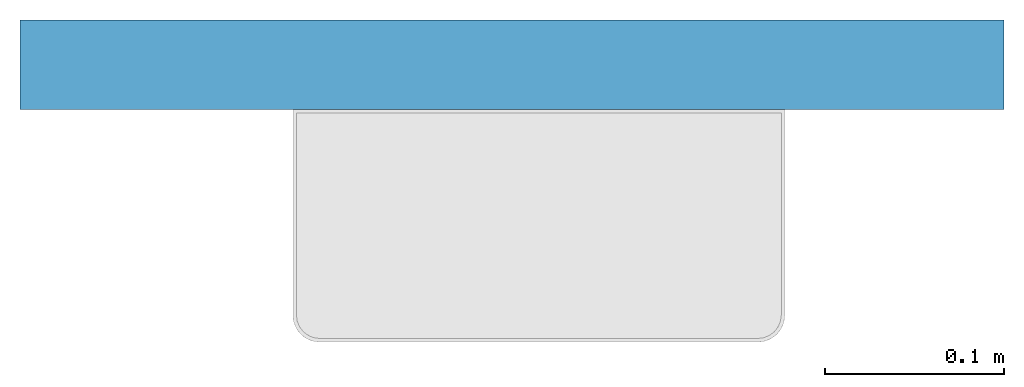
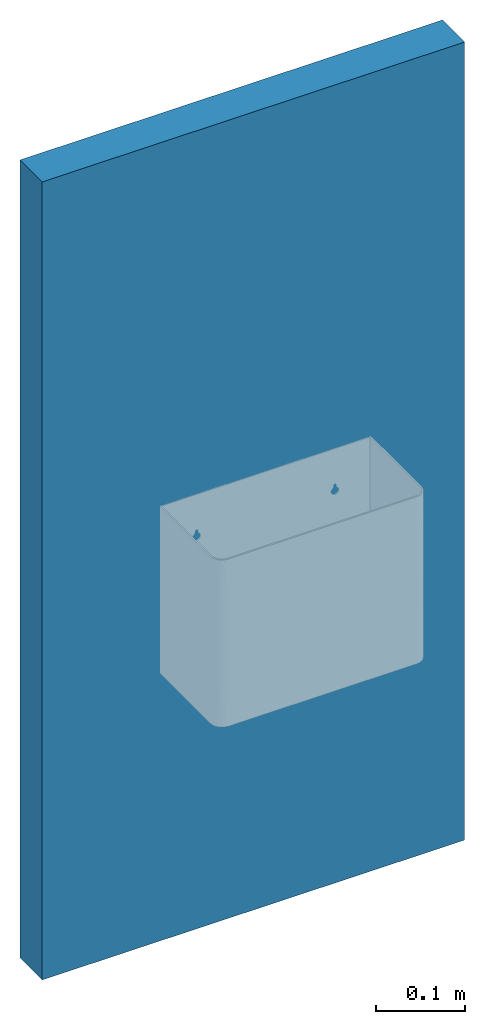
# One storey, part 1 of 2: 1 wall.
"""IFC2X3 building model written with IfcOpenShell, lengths in millimetres."""

from ifc_helpers import new_model, entity, si_unit, converted_unit, derived_unit, direction, frame, frame_2d, origin, place, context, subcontext, project, spatial, rectangle, extrude, material, layer, layer_set, layer_usage, type_object, element, save


model = new_model("IFC2X3")

# Units and contexts
model_context = context("Model", 3, precision=1e-05, world=origin(), true_north=direction((2.0, 6.12303176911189e-17, 1.0)))
context_of_model = context(None, 3, precision=1e-05, world=origin(), true_north=direction((2.0, 6.12303176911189e-17, 1.0)))
body_context = subcontext(model_context, "Body", "Model", "MODEL_VIEW")
ifc_project = project(units=[si_unit("LENGTHUNIT", "METRE", prefix="MILLI"), si_unit("AREAUNIT", "SQUARE_METRE"), si_unit("VOLUMEUNIT", "CUBIC_METRE"), converted_unit("PLANEANGLEUNIT", "DEGREE", entity("IfcRatioMeasure", 0.0174532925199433), si_unit("PLANEANGLEUNIT", "RADIAN"), dimensions=[0, 0, 0, 0, 0, 0, 0]), si_unit("MASSUNIT", "GRAM", prefix="KILO"), si_unit("TIMEUNIT", "SECOND"), si_unit("THERMODYNAMICTEMPERATUREUNIT", "KELVIN"), derived_unit("THERMALTRANSMITTANCEUNIT", [(si_unit("MASSUNIT", "GRAM", prefix="KILO"), 1), (si_unit("THERMODYNAMICTEMPERATUREUNIT", "KELVIN"), -1), (si_unit("TIMEUNIT", "SECOND"), -3)]), derived_unit("VOLUMETRICFLOWRATEUNIT", [(si_unit("LENGTHUNIT", "METRE"), 3), (si_unit("TIMEUNIT", "SECOND"), -1)]), si_unit("POWERUNIT", "WATT")], contexts=[model_context, context_of_model])

# Site, building, storey
site_placement = place(None, origin())
site = spatial("IfcSite", under=ifc_project, at=site_placement, Name="Default", CompositionType="ELEMENT")
building_placement = place(site_placement, origin())
building = spatial("IfcBuilding", under=site, at=building_placement, CompositionType="ELEMENT")
storey_placement = place(building_placement, origin())
storey = spatial("IfcBuildingStorey", under=building, at=storey_placement, Name="Level 1", CompositionType="ELEMENT", Elevation=0.0)

# Wall
ifc_material = material(Name="Default Wall")
ifc_layer = layer(ifc_material, 50.0)
ifc_layer_set = layer_set([ifc_layer], Name="Basic Wall:Wall 1")
ifc_layer_usage = layer_usage(ifc_layer_set, "AXIS2", "NEGATIVE", 25.0)
wall_type = type_object("IfcWallType", Name="Basic Wall:Wall 1", PredefinedType="STANDARD", material=ifc_layer_set)
wall_placement = place(storey_placement, frame((-90.7477365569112, 3977.69853342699, 5.76079636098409)))
element("IfcWallStandardCase", 1, at=wall_placement, inside=storey, type_object=wall_type, material=ifc_layer_usage, Name="Basic Wall:Wall 1:3092", ObjectType="Basic Wall:Wall 1:1494", context=body_context, shape_type="SweptSolid", body=[
    extrude(rectangle(XDim=550.0, YDim=50.0000000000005, at=frame_2d((275.0, 0.0), x_axis=(-1.0, 0.0))), origin(), (0.0, 0.0, 1.0), 1098.33120279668),
])

save(model, "model.ifc")
